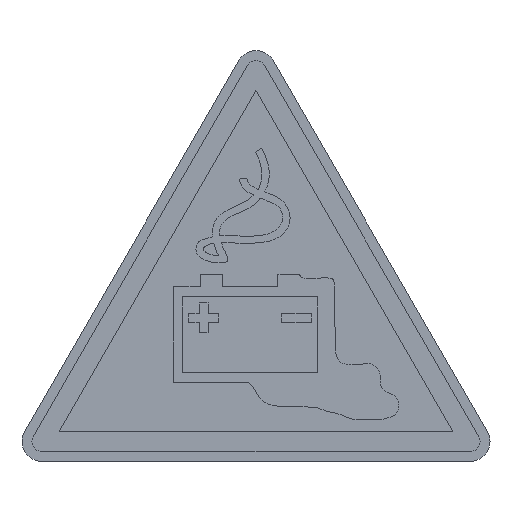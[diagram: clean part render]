
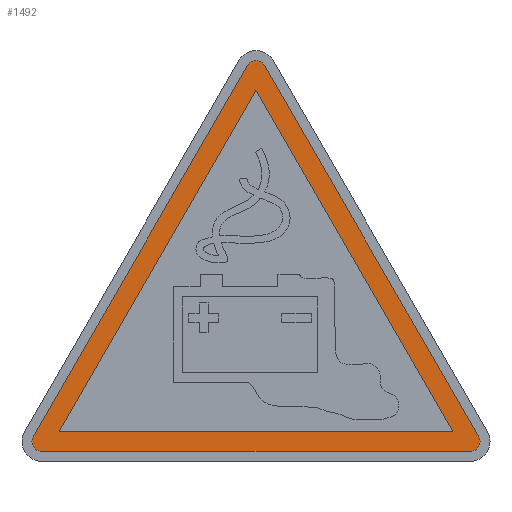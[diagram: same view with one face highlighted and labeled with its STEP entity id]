
A CAD part, top view. The second image highlights one B-rep face of the part: STEP entity #1492.
In plain terms, the highlighted planar face has unit normal (0, 0, 1).
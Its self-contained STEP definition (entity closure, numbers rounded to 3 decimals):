
#123 = VERTEX_POINT ( 'NONE', #2372 ) ;
#135 = LINE ( 'NONE', #3230, #1099 ) ;
#144 = CARTESIAN_POINT ( 'NONE',  ( 0., 37.301, 0.22 ) ) ;
#150 = CIRCLE ( 'NONE', #1871, 1. ) ;
#194 = CARTESIAN_POINT ( 'NONE',  ( -21.536, 1., 0.22 ) ) ;
#202 = VERTEX_POINT ( 'NONE', #2698 ) ;
#415 = CARTESIAN_POINT ( 'NONE',  ( -0.866, 39.801, 0.22 ) ) ;
#453 = ORIENTED_EDGE ( 'NONE', *, *, #1489, .T. ) ;
#492 = CARTESIAN_POINT ( 'NONE',  ( -19.804, 3., 0.22 ) ) ;
#502 = CARTESIAN_POINT ( 'NONE',  ( 19.804, 3., 0.22 ) ) ;
#613 = ORIENTED_EDGE ( 'NONE', *, *, #840, .F. ) ;
#630 = VERTEX_POINT ( 'NONE', #1486 ) ;
#632 = LINE ( 'NONE', #144, #3234 ) ;
#654 = DIRECTION ( 'NONE',  ( 1., 0., 0. ) ) ;
#665 = CARTESIAN_POINT ( 'NONE',  ( -21.536, 2., 0.22 ) ) ;
#738 = CARTESIAN_POINT ( 'NONE',  ( 0., 39.301, 0.22 ) ) ;
#760 = VECTOR ( 'NONE', #1278, 1000. ) ;
#807 = CARTESIAN_POINT ( 'NONE',  ( 0., 39.301, 0.22 ) ) ;
#840 = EDGE_CURVE ( 'NONE', #885, #630, #632, .T. ) ;
#873 = DIRECTION ( 'NONE',  ( -0.5, -0.866, 0. ) ) ;
#885 = VERTEX_POINT ( 'NONE', #3203 ) ;
#891 = CARTESIAN_POINT ( 'NONE',  ( 21.536, 2., 0.22 ) ) ;
#973 = AXIS2_PLACEMENT_3D ( 'NONE', #891, #1915, #2950 ) ;
#989 = LINE ( 'NONE', #194, #760 ) ;
#1025 = AXIS2_PLACEMENT_3D ( 'NONE', #738, #2345, #2139 ) ;
#1033 = CARTESIAN_POINT ( 'NONE',  ( 0.866, 39.801, 0.22 ) ) ;
#1046 = LINE ( 'NONE', #502, #3224 ) ;
#1099 = VECTOR ( 'NONE', #2400, 1000. ) ;
#1140 = ORIENTED_EDGE ( 'NONE', *, *, #2156, .F. ) ;
#1171 = DIRECTION ( 'NONE',  ( -0.5, -0.866, 0. ) ) ;
#1232 = LINE ( 'NONE', #415, #1777 ) ;
#1278 = DIRECTION ( 'NONE',  ( 1., 0., 0. ) ) ;
#1307 = AXIS2_PLACEMENT_3D ( 'NONE', #1403, #1930, #654 ) ;
#1313 = VERTEX_POINT ( 'NONE', #2912 ) ;
#1403 = CARTESIAN_POINT ( 'NONE',  ( -21.536, 2., 0.22 ) ) ;
#1463 = EDGE_LOOP ( 'NONE', ( #1604, #453, #2705, #2325, #2299, #2966, #3102 ) ) ;
#1486 = CARTESIAN_POINT ( 'NONE',  ( -19.804, 3., 0.22 ) ) ;
#1489 = EDGE_CURVE ( 'NONE', #1863, #202, #1232, .T. ) ;
#1492 = ADVANCED_FACE ( 'NONE', ( #3259, #3292 ), #2004, .T. ) ;
#1560 = LINE ( 'NONE', #492, #1714 ) ;
#1604 = ORIENTED_EDGE ( 'NONE', *, *, #2503, .T. ) ;
#1695 = EDGE_CURVE ( 'NONE', #2405, #1313, #2218, .T. ) ;
#1700 = EDGE_CURVE ( 'NONE', #2559, #2405, #989, .T. ) ;
#1714 = VECTOR ( 'NONE', #2337, 1000. ) ;
#1777 = VECTOR ( 'NONE', #1171, 1000. ) ;
#1822 = AXIS2_PLACEMENT_3D ( 'NONE', #807, #2056, #2020 ) ;
#1863 = VERTEX_POINT ( 'NONE', #2831 ) ;
#1871 = AXIS2_PLACEMENT_3D ( 'NONE', #665, #2535, #3026 ) ;
#1915 = DIRECTION ( 'NONE',  ( 0., 0., 1. ) ) ;
#1930 = DIRECTION ( 'NONE',  ( 0., 0., 1. ) ) ;
#2004 = PLANE ( 'NONE',  #1025 ) ;
#2020 = DIRECTION ( 'NONE',  ( 1., 0., 0. ) ) ;
#2024 = EDGE_LOOP ( 'NONE', ( #1140, #613, #2176 ) ) ;
#2043 = EDGE_CURVE ( 'NONE', #2756, #2559, #3136, .T. ) ;
#2056 = DIRECTION ( 'NONE',  ( 0., 0., 1. ) ) ;
#2139 = DIRECTION ( 'NONE',  ( 1., 0., 0. ) ) ;
#2156 = EDGE_CURVE ( 'NONE', #630, #123, #1560, .T. ) ;
#2176 = ORIENTED_EDGE ( 'NONE', *, *, #2742, .F. ) ;
#2218 = CIRCLE ( 'NONE', #973, 1. ) ;
#2279 = DIRECTION ( 'NONE',  ( -0.5, 0.866, 0. ) ) ;
#2299 = ORIENTED_EDGE ( 'NONE', *, *, #1700, .T. ) ;
#2325 = ORIENTED_EDGE ( 'NONE', *, *, #2043, .T. ) ;
#2337 = DIRECTION ( 'NONE',  ( 1., 0., 0. ) ) ;
#2345 = DIRECTION ( 'NONE',  ( 0., 0., 1. ) ) ;
#2372 = CARTESIAN_POINT ( 'NONE',  ( 19.804, 3., 0.22 ) ) ;
#2396 = EDGE_CURVE ( 'NONE', #202, #2756, #150, .T. ) ;
#2400 = DIRECTION ( 'NONE',  ( -0.5, 0.866, 0. ) ) ;
#2405 = VERTEX_POINT ( 'NONE', #3248 ) ;
#2503 = EDGE_CURVE ( 'NONE', #3277, #1863, #2748, .T. ) ;
#2535 = DIRECTION ( 'NONE',  ( 0., 0., 1. ) ) ;
#2559 = VERTEX_POINT ( 'NONE', #2837 ) ;
#2698 = CARTESIAN_POINT ( 'NONE',  ( -22.402, 2.5, 0.22 ) ) ;
#2705 = ORIENTED_EDGE ( 'NONE', *, *, #2396, .T. ) ;
#2742 = EDGE_CURVE ( 'NONE', #123, #885, #1046, .T. ) ;
#2748 = CIRCLE ( 'NONE', #1822, 1. ) ;
#2756 = VERTEX_POINT ( 'NONE', #2820 ) ;
#2820 = CARTESIAN_POINT ( 'NONE',  ( -22.536, 2., 0.22 ) ) ;
#2831 = CARTESIAN_POINT ( 'NONE',  ( -0.866, 39.801, 0.22 ) ) ;
#2837 = CARTESIAN_POINT ( 'NONE',  ( -21.536, 1., 0.22 ) ) ;
#2912 = CARTESIAN_POINT ( 'NONE',  ( 22.402, 2.5, 0.22 ) ) ;
#2950 = DIRECTION ( 'NONE',  ( 1., 0., 0. ) ) ;
#2966 = ORIENTED_EDGE ( 'NONE', *, *, #1695, .T. ) ;
#3026 = DIRECTION ( 'NONE',  ( 1., 0., 0. ) ) ;
#3102 = ORIENTED_EDGE ( 'NONE', *, *, #3144, .T. ) ;
#3136 = CIRCLE ( 'NONE', #1307, 1. ) ;
#3144 = EDGE_CURVE ( 'NONE', #1313, #3277, #135, .T. ) ;
#3203 = CARTESIAN_POINT ( 'NONE',  ( 0., 37.301, 0.22 ) ) ;
#3224 = VECTOR ( 'NONE', #2279, 1000. ) ;
#3230 = CARTESIAN_POINT ( 'NONE',  ( 22.402, 2.5, 0.22 ) ) ;
#3234 = VECTOR ( 'NONE', #873, 1000. ) ;
#3248 = CARTESIAN_POINT ( 'NONE',  ( 21.536, 1., 0.22 ) ) ;
#3259 = FACE_OUTER_BOUND ( 'NONE', #1463, .T. ) ;
#3277 = VERTEX_POINT ( 'NONE', #1033 ) ;
#3292 = FACE_BOUND ( 'NONE', #2024, .T. ) ;
